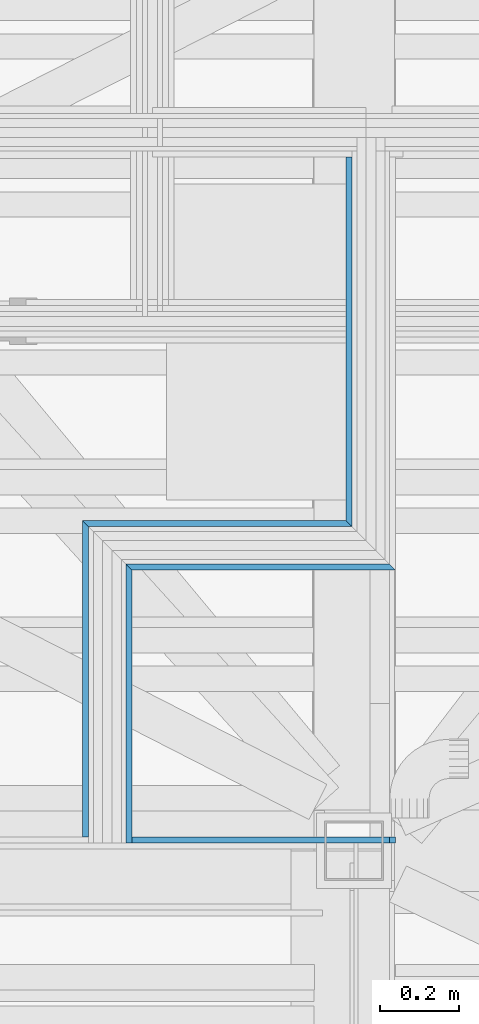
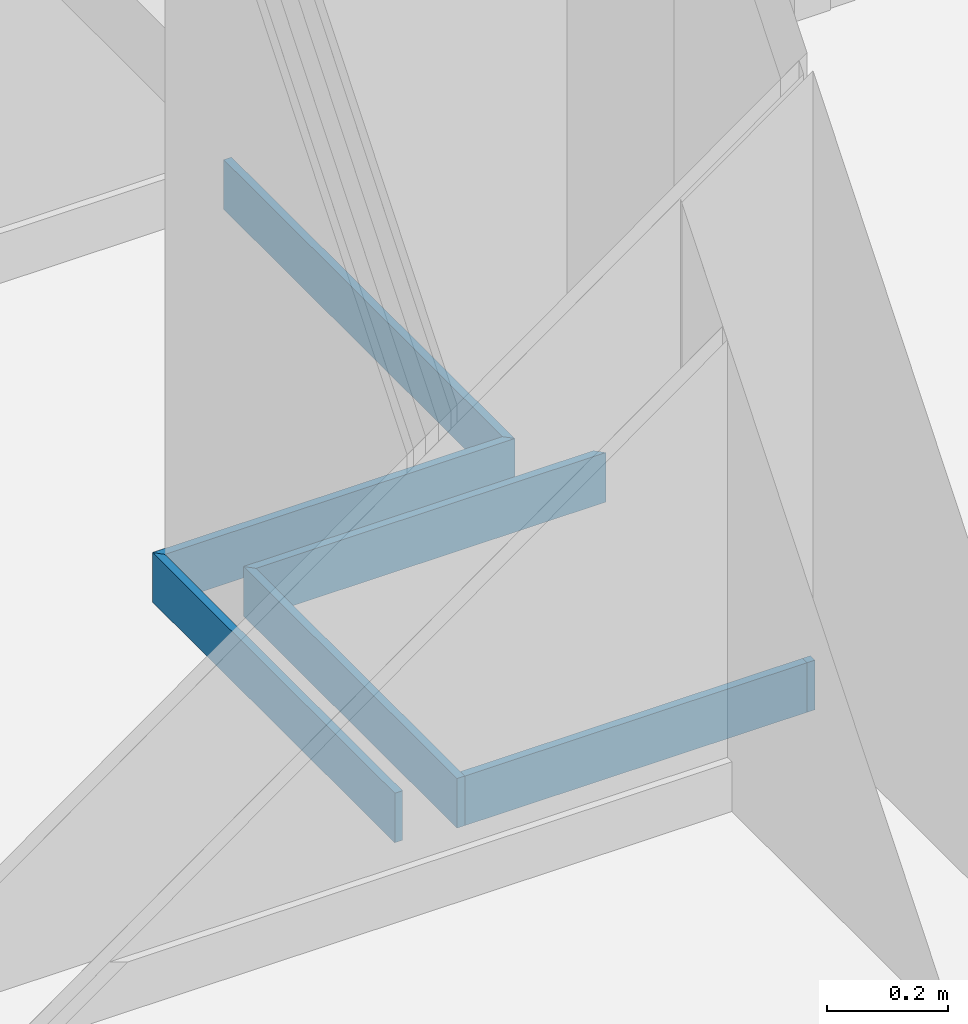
# One storey, part 79 of 183: 7 building element parts, 4 elements without a shape of their own.
"""IFC2X3 building model written with IfcOpenShell, lengths in metres."""

from ifc_helpers import new_model, entity, si_unit, converted_unit, derived_unit, money_unit, direction, frame, frame_2d, origin_with_axes, place, context, subcontext, project, spatial, polyline, rectangle, outline, extrude, material, type_object, element, aggregate, save


model = new_model("IFC2X3")

# Units and contexts
model_context = context("Model", 3, precision=1e-05, world=origin_with_axes(), true_north=direction((0.0, 1.0)))
body_context = subcontext(model_context, "Body", "Model", "MODEL_VIEW", scale=1.0)
ifc_project = project(units=[si_unit("LENGTHUNIT", "METRE"), si_unit("AREAUNIT", "SQUARE_METRE"), si_unit("VOLUMEUNIT", "CUBIC_METRE"), si_unit("ABSORBEDDOSEUNIT", "GRAY"), si_unit("AMOUNTOFSUBSTANCEUNIT", "MOLE"), si_unit("DOSEEQUIVALENTUNIT", "SIEVERT"), si_unit("ELECTRICCAPACITANCEUNIT", "FARAD"), si_unit("ELECTRICCHARGEUNIT", "COULOMB"), si_unit("ELECTRICCONDUCTANCEUNIT", "SIEMENS"), si_unit("ELECTRICCURRENTUNIT", "AMPERE"), si_unit("ELECTRICRESISTANCEUNIT", "OHM"), si_unit("ELECTRICVOLTAGEUNIT", "VOLT"), si_unit("ENERGYUNIT", "JOULE"), si_unit("FORCEUNIT", "NEWTON"), si_unit("FREQUENCYUNIT", "HERTZ"), si_unit("ILLUMINANCEUNIT", "LUX"), si_unit("INDUCTANCEUNIT", "HENRY"), si_unit("LUMINOUSFLUXUNIT", "LUMEN"), si_unit("LUMINOUSINTENSITYUNIT", "CANDELA"), si_unit("MAGNETICFLUXDENSITYUNIT", "TESLA"), si_unit("MAGNETICFLUXUNIT", "WEBER"), si_unit("MASSUNIT", "GRAM"), converted_unit("PLANEANGLEUNIT", "degree", entity("IfcReal", 0.0174532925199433), si_unit("PLANEANGLEUNIT", "RADIAN"), dimensions=[0, 0, 0, 0, 0, 0, 0]), si_unit("POWERUNIT", "WATT"), si_unit("PRESSUREUNIT", "PASCAL"), si_unit("RADIOACTIVITYUNIT", "BECQUEREL"), si_unit("SOLIDANGLEUNIT", "STERADIAN"), si_unit("THERMODYNAMICTEMPERATUREUNIT", "KELVIN"), si_unit("TIMEUNIT", "SECOND"), derived_unit("ACCELERATIONUNIT", [(si_unit("LENGTHUNIT", "METRE"), 1), (si_unit("TIMEUNIT", "SECOND"), -2)]), derived_unit("ANGULARVELOCITYUNIT", [(converted_unit("PLANEANGLEUNIT", "degree", entity("IfcReal", 0.0174532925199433), si_unit("PLANEANGLEUNIT", "RADIAN"), dimensions=[0, 0, 0, 0, 0, 0, 0]), 1), (si_unit("TIMEUNIT", "SECOND"), -1)]), derived_unit("CURVATUREUNIT", [(converted_unit("PLANEANGLEUNIT", "degree", entity("IfcReal", 0.0174532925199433), si_unit("PLANEANGLEUNIT", "RADIAN"), dimensions=[0, 0, 0, 0, 0, 0, 0]), 1), (si_unit("LENGTHUNIT", "METRE"), -1)]), derived_unit("DYNAMICVISCOSITYUNIT", [(si_unit("PRESSUREUNIT", "PASCAL"), 1), (si_unit("TIMEUNIT", "SECOND"), 1)]), derived_unit("HEATFLUXDENSITYUNIT", [(si_unit("POWERUNIT", "WATT"), 1), (si_unit("LENGTHUNIT", "METRE"), -2)]), derived_unit("HEATINGVALUEUNIT", [(si_unit("ENERGYUNIT", "JOULE"), 1), (si_unit("MASSUNIT", "GRAM"), -1)]), derived_unit("INTEGERCOUNTRATEUNIT", [(si_unit("TIMEUNIT", "SECOND"), -1)]), derived_unit("IONCONCENTRATIONUNIT", [(si_unit("MASSUNIT", "GRAM"), 1), (si_unit("VOLUMEUNIT", "CUBIC_METRE"), -1)]), derived_unit("ISOTHERMALMOISTURECAPACITYUNIT", [(si_unit("VOLUMEUNIT", "CUBIC_METRE"), 1), (si_unit("MASSUNIT", "GRAM"), -1)]), derived_unit("KINEMATICVISCOSITYUNIT", [(si_unit("AREAUNIT", "SQUARE_METRE"), 1), (si_unit("TIMEUNIT", "SECOND"), -1)]), derived_unit("LINEARFORCEUNIT", [(si_unit("FORCEUNIT", "NEWTON"), 1), (si_unit("LENGTHUNIT", "METRE"), -1)]), derived_unit("LINEARMOMENTUNIT", [(si_unit("FORCEUNIT", "NEWTON"), 1), (si_unit("LENGTHUNIT", "METRE"), -1)]), derived_unit("LINEARSTIFFNESSUNIT", [(si_unit("FORCEUNIT", "NEWTON"), 1), (si_unit("LENGTHUNIT", "METRE"), -1)]), derived_unit("LINEARVELOCITYUNIT", [(si_unit("LENGTHUNIT", "METRE"), 1), (si_unit("TIMEUNIT", "SECOND"), -1)]), derived_unit("LUMINOUSINTENSITYDISTRIBUTIONUNIT", [(si_unit("LUMINOUSINTENSITYUNIT", "CANDELA"), 1), (si_unit("LUMINOUSFLUXUNIT", "LUMEN"), -1)]), derived_unit("MASSDENSITYUNIT", [(si_unit("MASSUNIT", "GRAM"), 1), (si_unit("VOLUMEUNIT", "CUBIC_METRE"), -1)]), derived_unit("MASSFLOWRATEUNIT", [(si_unit("MASSUNIT", "GRAM"), 1), (si_unit("TIMEUNIT", "SECOND"), -1)]), derived_unit("MASSPERLENGTHUNIT", [(si_unit("MASSUNIT", "GRAM"), 1), (si_unit("LENGTHUNIT", "METRE"), -1)]), derived_unit("MODULUSOFELASTICITYUNIT", [(si_unit("FORCEUNIT", "NEWTON"), 1), (si_unit("AREAUNIT", "SQUARE_METRE"), -1)]), derived_unit("MODULUSOFLINEARSUBGRADEREACTIONUNIT", [(si_unit("FORCEUNIT", "NEWTON"), 1), (si_unit("LENGTHUNIT", "METRE"), -2)]), derived_unit("MODULUSOFROTATIONALSUBGRADEREACTIONUNIT", [(si_unit("FORCEUNIT", "NEWTON"), 1), (si_unit("LENGTHUNIT", "METRE"), 1)]), derived_unit("MODULUSOFSUBGRADEREACTIONUNIT", [(si_unit("FORCEUNIT", "NEWTON"), 1), (si_unit("VOLUMEUNIT", "CUBIC_METRE"), -1)]), derived_unit("MOISTUREDIFFUSIVITYUNIT", [(si_unit("VOLUMEUNIT", "CUBIC_METRE"), 1), (si_unit("TIMEUNIT", "SECOND"), -1)]), derived_unit("MOLECULARWEIGHTUNIT", [(si_unit("MASSUNIT", "GRAM"), 1), (si_unit("AMOUNTOFSUBSTANCEUNIT", "MOLE"), -1)]), derived_unit("PLANARFORCEUNIT", [(si_unit("FORCEUNIT", "NEWTON"), 1), (si_unit("LENGTHUNIT", "METRE"), -2)]), derived_unit("ROTATIONALFREQUENCYUNIT", [(si_unit("TIMEUNIT", "SECOND"), -1)]), derived_unit("ROTATIONALMASSUNIT", [(si_unit("MASSUNIT", "GRAM"), 1), (si_unit("LENGTHUNIT", "METRE"), 2)]), derived_unit("ROTATIONALSTIFFNESSUNIT", [(si_unit("FORCEUNIT", "NEWTON"), 1), (si_unit("LENGTHUNIT", "METRE"), 1), (converted_unit("PLANEANGLEUNIT", "degree", entity("IfcReal", 0.0174532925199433), si_unit("PLANEANGLEUNIT", "RADIAN"), dimensions=[0, 0, 0, 0, 0, 0, 0]), -1)]), derived_unit("SECTIONAREAINTEGRALUNIT", [(si_unit("LENGTHUNIT", "METRE"), 5)]), derived_unit("SECTIONMODULUSUNIT", [(si_unit("LENGTHUNIT", "METRE"), 3)]), derived_unit("SHEARMODULUSUNIT", [(si_unit("FORCEUNIT", "NEWTON"), 1), (si_unit("AREAUNIT", "SQUARE_METRE"), -1)]), derived_unit("SOUNDPOWERUNIT", [(si_unit("ENERGYUNIT", "JOULE"), 1), (si_unit("TIMEUNIT", "SECOND"), -1)]), derived_unit("SPECIFICHEATCAPACITYUNIT", [(si_unit("FORCEUNIT", "NEWTON"), 1), (si_unit("MASSUNIT", "GRAM"), -1), (si_unit("THERMODYNAMICTEMPERATUREUNIT", "KELVIN"), -1)]), derived_unit("TEMPERATUREGRADIENTUNIT", [(si_unit("THERMODYNAMICTEMPERATUREUNIT", "KELVIN"), 1), (si_unit("LENGTHUNIT", "METRE"), -1)]), derived_unit("THERMALADMITTANCEUNIT", [(si_unit("POWERUNIT", "WATT"), 1), (si_unit("AREAUNIT", "SQUARE_METRE"), -1), (si_unit("THERMODYNAMICTEMPERATUREUNIT", "KELVIN"), -1)]), derived_unit("THERMALCONDUCTANCEUNIT", [(si_unit("POWERUNIT", "WATT"), 1), (si_unit("LENGTHUNIT", "METRE"), -1), (si_unit("THERMODYNAMICTEMPERATUREUNIT", "KELVIN"), -1)]), derived_unit("THERMALEXPANSIONCOEFFICIENTUNIT", [(si_unit("THERMODYNAMICTEMPERATUREUNIT", "KELVIN"), -1)]), derived_unit("THERMALRESISTANCEUNIT", [(si_unit("AREAUNIT", "SQUARE_METRE"), 1), (si_unit("POWERUNIT", "WATT"), -1)]), derived_unit("THERMALTRANSMITTANCEUNIT", [(si_unit("POWERUNIT", "WATT"), 1), (si_unit("AREAUNIT", "SQUARE_METRE"), -1), (si_unit("THERMODYNAMICTEMPERATUREUNIT", "KELVIN"), -1)]), derived_unit("TORQUEUNIT", [(si_unit("FORCEUNIT", "NEWTON"), 1), (si_unit("LENGTHUNIT", "METRE"), 1)]), derived_unit("VAPORPERMEABILITYUNIT", [(si_unit("MASSUNIT", "GRAM"), 1), (si_unit("TIMEUNIT", "SECOND"), -1)]), derived_unit("VOLUMETRICFLOWRATEUNIT", [(si_unit("VOLUMEUNIT", "CUBIC_METRE"), 1), (si_unit("TIMEUNIT", "SECOND"), -1)]), derived_unit("WARPINGCONSTANTUNIT", [(si_unit("LENGTHUNIT", "METRE"), 6)]), derived_unit("WARPINGMOMENTUNIT", [(si_unit("FORCEUNIT", "NEWTON"), 1), (si_unit("LENGTHUNIT", "METRE"), 2)]), money_unit("GBP")], contexts=[model_context])

# Site, building, storey
site_placement = place(None, origin_with_axes())
site = spatial("IfcSite", under=ifc_project, at=site_placement, Name="Site", CompositionType="ELEMENT")
building_placement = place(site_placement, origin_with_axes())
building = spatial("IfcBuilding", under=site, at=building_placement, Name="Building01", CompositionType="ELEMENT")
storey_placement = place(building_placement, frame((0.0, 0.0, 5.15), z_axis=(0.0, 0.0, 1.0), x_axis=(1.0, 0.0, 0.0)))
storey = spatial("IfcBuildingStorey", under=building, at=storey_placement, Name="1F", CompositionType="ELEMENT", Elevation=5.15)

# Wall, building element parts
wall_type_1 = type_object("IfcWallType", Name="SHE_A-Walls_Type05a_Partition_95mm_tall", PredefinedType="NOTDEFINED")
wall_1_placement = place(storey_placement, frame((17.273132, 8.82, 0.0), z_axis=(0.0, 0.0, 1.0), x_axis=(0.0, 1.0, 0.0)))
wall_1 = element("IfcWall", 1, at=wall_1_placement, inside=storey, type_object=wall_type_1, Name="5A", ObjectType="SHE_A-Walls_Type05a_Partition_95mm_tall")
ifc_material = material(Name="A_BSUK_Walls_Timber")
placement_1 = place(wall_1_placement, origin_with_axes())
building_element_part_1 = element("IfcBuildingElementPart", 2, at=placement_1, material=ifc_material, Name="1", context=body_context, shape_type="SweptSolid", body=[
    extrude(outline(polyline([(0.705, -0.06), (0.0, -0.06), (0.0, -0.075), (0.69, -0.075), (0.705, -0.06)])), frame((0.0, 0.0, 0.015), z_axis=(0.0, 0.0, 1.0), x_axis=(1.0, 0.0, 0.0)), (0.0, 0.0, 1.0), 0.1),
])
building_element_part_2 = element("IfcBuildingElementPart", 3, at=placement_1, material=ifc_material, Name="7", context=body_context, shape_type="SweptSolid", body=[
    extrude(outline(polyline([(0.815, 0.05), (0.015, 0.05), (0.015, 0.035), (0.8, 0.035), (0.815, 0.05)])), frame((0.0, 0.0, 0.015), z_axis=(0.0, 0.0, 1.0), x_axis=(1.0, 0.0, 0.0)), (0.0, 0.0, 1.0), 0.1),
])
aggregate(wall_1, [building_element_part_1, building_element_part_2])

wall_2_placement = place(storey_placement, frame((17.273132, 9.585, 0.0), z_axis=(0.0, 0.0, 1.0), x_axis=(1.0, 0.0, 0.0)))
wall_2 = element("IfcWall", 4, at=wall_2_placement, inside=storey, type_object=wall_type_1, Name="5A", ObjectType="SHE_A-Walls_Type05a_Partition_95mm_tall")
placement_2 = place(wall_2_placement, origin_with_axes())
building_element_part_3 = element("IfcBuildingElementPart", 5, at=placement_2, material=ifc_material, Name="1", context=body_context, shape_type="SweptSolid", body=[
    extrude(outline(polyline([(0.726868, -0.06), (0.06, -0.06), (0.075, -0.075), (0.741868, -0.075), (0.726868, -0.06)])), frame((0.0, 0.0, 0.015), z_axis=(0.0, 0.0, 1.0), x_axis=(1.0, 0.0, 0.0)), (0.0, 0.0, 1.0), 0.1),
])
building_element_part_4 = element("IfcBuildingElementPart", 6, at=placement_2, material=ifc_material, Name="7", context=body_context, shape_type="SweptSolid", body=[
    extrude(outline(polyline([(0.616868, 0.05), (-0.05, 0.05), (-0.035, 0.035), (0.631868, 0.035), (0.616868, 0.05)])), frame((0.0, 0.0, 0.015), z_axis=(0.0, 0.0, 1.0), x_axis=(1.0, 0.0, 0.0)), (0.0, 0.0, 1.0), 0.1),
])
aggregate(wall_2, [building_element_part_3, building_element_part_4])

# Wall, building element part
wall_3_placement = place(storey_placement, frame((17.94, 9.585, 0.0), z_axis=(0.0, 0.0, 1.0), x_axis=(0.0, 1.0, 0.0)))
wall_3 = element("IfcWall", 7, at=wall_3_placement, inside=storey, type_object=wall_type_1, Name="5A", ObjectType="SHE_A-Walls_Type05a_Partition_95mm_tall")
building_element_part_5_placement = place(wall_3_placement, origin_with_axes())
building_element_part_5 = element("IfcBuildingElementPart", 8, at=building_element_part_5_placement, material=ifc_material, Name="7", context=body_context, shape_type="SweptSolid", body=[
    extrude(outline(polyline([(0.97, 0.05), (0.05, 0.05), (0.035, 0.035), (0.97, 0.035), (0.97, 0.05)])), frame((0.0, 0.0, 0.015), z_axis=(0.0, 0.0, 1.0), x_axis=(1.0, 0.0, 0.0)), (0.0, 0.0, 1.0), 0.1),
])
aggregate(wall_3, [building_element_part_5])

# Wall, building element parts
wall_type_2 = type_object("IfcWallType", Name="SHE_A-Walls_Type03a_BlockworkWall_170mm", PredefinedType="NOTDEFINED")
wall_4_placement = place(storey_placement, frame((17.75, 8.805, 0.0), z_axis=(0.0, 0.0, 1.0), x_axis=(-1.0, 0.0, 0.0)))
wall_4 = element("IfcWall", 9, at=wall_4_placement, inside=storey, type_object=wall_type_2, Name="4B", ObjectType="SHE_A-Walls_Type03a_BlockworkWall_170mm")
placement_3 = place(wall_4_placement, origin_with_axes())
building_element_part_6 = element("IfcBuildingElementPart", 10, at=placement_3, material=ifc_material, Name="1", context=body_context, shape_type="SweptSolid", body=[
    extrude(rectangle(XDim=0.015, YDim=0.015, at=frame_2d((-0.2575, -0.0225), x_axis=(-1.0, 0.0))), frame((0.0, 0.0, 0.015), z_axis=(0.0, 0.0, 1.0), x_axis=(1.0, 0.0, 0.0)), (0.0, 0.0, 1.0), 0.1),
])
building_element_part_7 = element("IfcBuildingElementPart", 11, at=placement_3, material=ifc_material, Name="3", context=body_context, shape_type="SweptSolid", body=[
    extrude(rectangle(XDim=0.651868, YDim=0.015, at=frame_2d((0.075934, -0.0225), x_axis=(-1.0, 0.0))), frame((0.0, 0.0, 0.015), z_axis=(0.0, 0.0, 1.0), x_axis=(1.0, 0.0, 0.0)), (0.0, 0.0, 1.0), 0.1),
])
aggregate(wall_4, [building_element_part_6, building_element_part_7])

save(model, "model.ifc")
